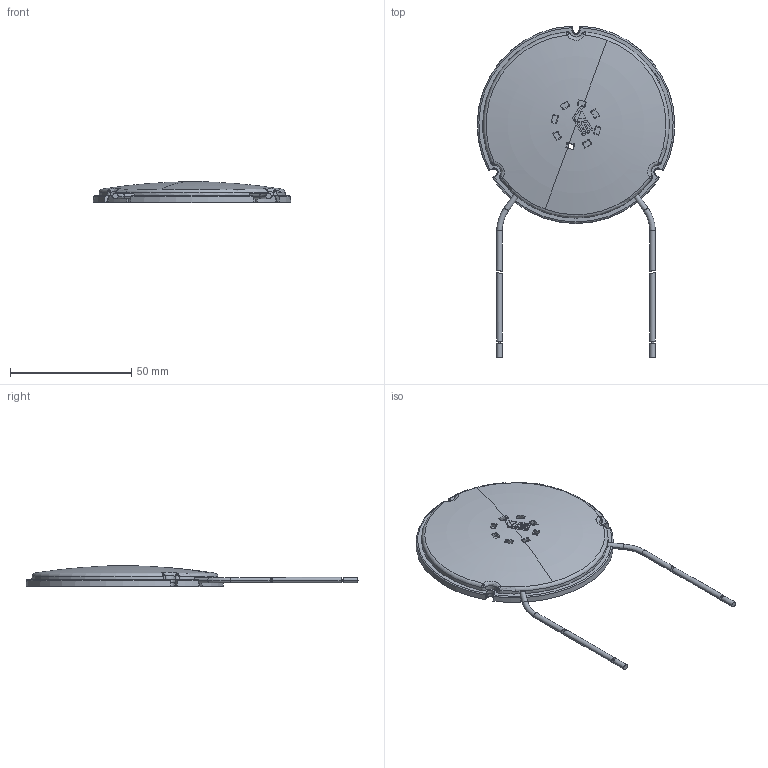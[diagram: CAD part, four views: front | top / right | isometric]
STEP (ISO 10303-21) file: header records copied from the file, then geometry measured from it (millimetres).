
FILE_DESCRIPTION(('Creo Elements/Direct Modeling STEP Export'),'2;1');
FILE_NAME('READYLINE_C08_SIDE_CABLE_EXIT.stp','2015-01-16T15:09:48',(''),(''),'Creo Elements/Direct Modeling STEP processor for AP214 (Solid Model)','Creo Elements/Direct Modeling 18.1D 22-Jun-2013 (C) Parametric Technology GmbH','');
FILE_SCHEMA(('AUTOMOTIVE_DESIGN { 1 0 10303 214 1 1 1 1 }'));
Length unit declared in the file: millimetre
Products named in the file (11): DIFFUSORE_D100.1; cavo_1; cavo_1.1; cavo_3; cavo_3.1; modulo
Assembly tree (5 placements, depth 2):
  DIFFUSORE_D100.1
    DIFFUSORE_D100.1
  cavo_1
    cavo_1
  cavo_1.1
    cavo_1.1
  cavo_3
    cavo_3
  cavo_3.1
    cavo_3.1
Bounding box: 81.48 x 136.9 x 8.8 mm (x, y, z)
Volume: 17555.2 mm3; surface area: 24117.6 mm2
Topology: 6 solids, 6 shells, 1769 faces, 4797 edges, 3087 vertices
Faces by surface type: plane 1041, cylinder 359, extrusion 132, bspline 122, sphere 45, torus 37, cone 33
Entity records: 67874 total; most frequent: CARTESIAN_POINT 24630, ORIENTED_EDGE 9500, DIRECTION 7528, EDGE_CURVE 4750, VECTOR 3258, LINE 3126, VERTEX_POINT 3087, AXIS2_PLACEMENT_3D 2135
